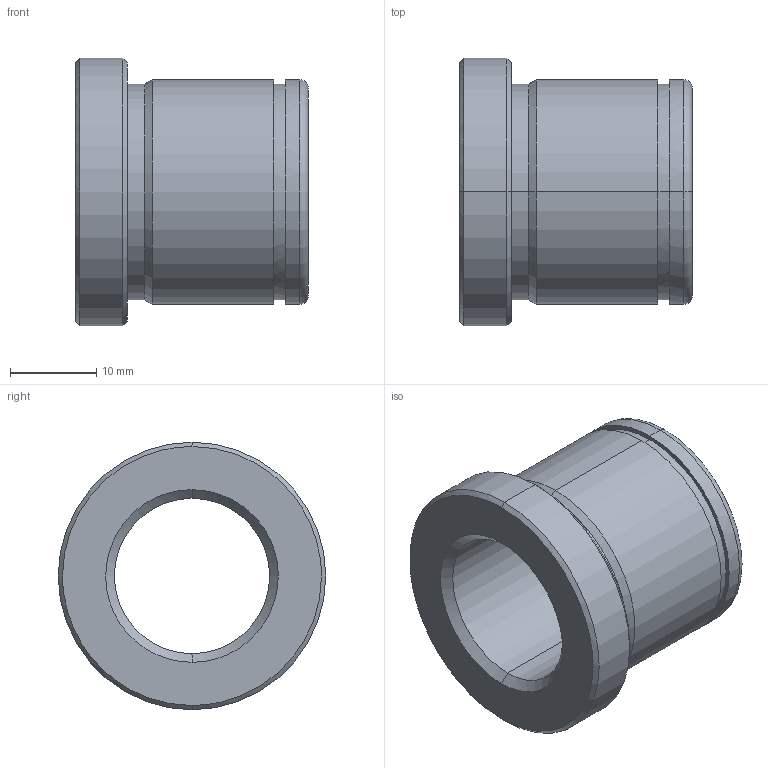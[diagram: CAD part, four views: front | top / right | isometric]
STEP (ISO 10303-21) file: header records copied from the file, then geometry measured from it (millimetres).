
FILE_DESCRIPTION(('CATIA V5 STEP Exchange'),'2;1');
FILE_NAME('C:\Users\Utente\Desktop\IO LAVORO\3D X SITO CF\X SITO\PLASTICA\553\553-18X27.stp','2021-05-23T17:31:38+00:00',('none'),('none'),'CATIA Version 5 Release 20 GA (IN-10)','CATIA V5 STEP AP203','none');
FILE_SCHEMA(('CONFIG_CONTROL_DESIGN'));
Length unit declared in the file: millimetre
Products named in the file (1): 553-18X27
Bounding box: 27 x 31 x 31 mm (x, y, z)
Volume: 8558.8 mm3; surface area: 4785.8 mm2
Topology: 1 solids, 1 shells, 29 faces, 92 edges, 68 vertices
Faces by surface type: cylinder 12, cone 8, plane 5, torus 4
Entity records: 1222 total; most frequent: CARTESIAN_POINT 368, ORIENTED_EDGE 184, DIRECTION 136, EDGE_CURVE 92, AXIS2_PLACEMENT_3D 88, VERTEX_POINT 68, CIRCLE 58, EDGE_LOOP 34
